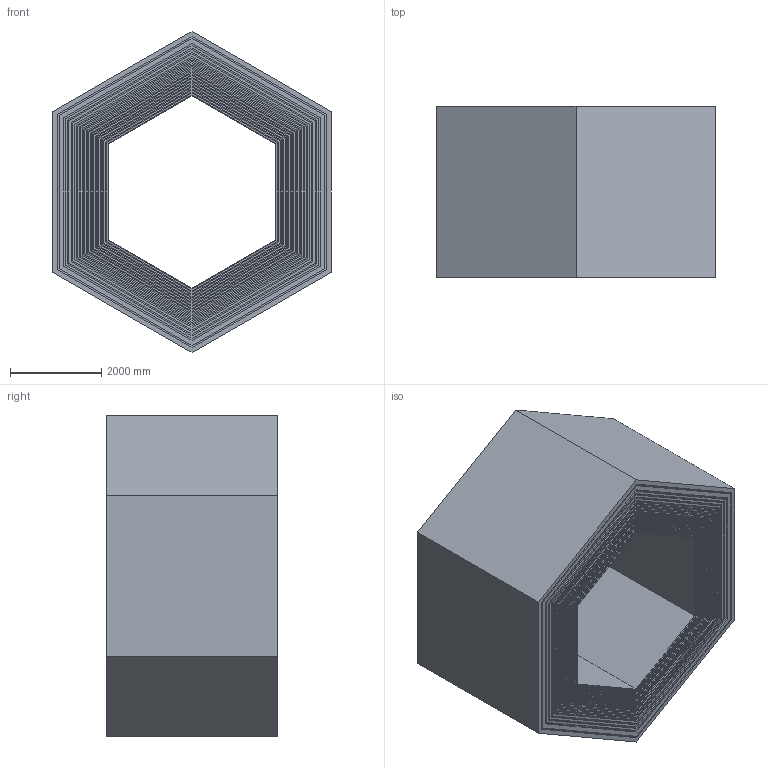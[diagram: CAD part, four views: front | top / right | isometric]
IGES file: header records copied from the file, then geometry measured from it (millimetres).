
Start section:  PTC IGES file: fr_barrel.igs
Global section: file name: fr_barrel.igs; native system: Pro/ENGINEER by Parametric Technology Corporation; preprocessor: 1999260; author: oshatz; organization: Unknown; date: 000922.101433; units: millimetre
Bounding box: 6090 x 3750 x 7032.13 mm (x, y, z)
Surface area: 206074035.7 mm2 (no closed solid volume)
Topology: 0 solids, 0 shells, 490 faces, 2520 edges, 2520 vertices
Faces by surface type: bspline 490
